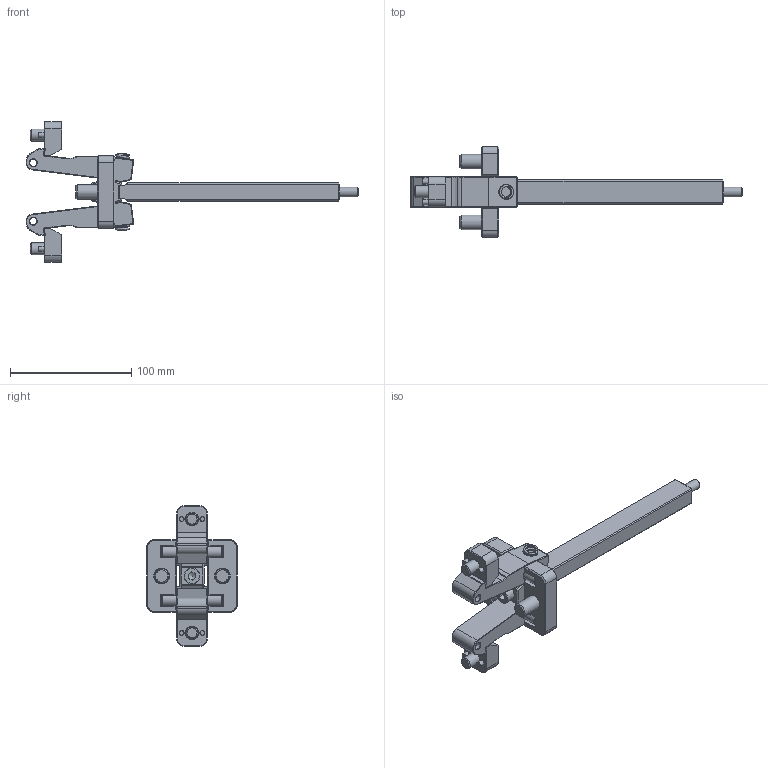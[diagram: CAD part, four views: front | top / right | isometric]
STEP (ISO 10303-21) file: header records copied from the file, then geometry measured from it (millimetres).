
FILE_DESCRIPTION (( 'STEP AP214' ), '1' );
FILE_NAME ('DT10K3.STEP', '2024-02-26T13:55:13', ( '' ), ( '' ), 'SwSTEP 2.0', 'SolidWorks 2023', '' );
FILE_SCHEMA (( 'AUTOMOTIVE_DESIGN' ));
Length unit declared in the file: millimetre
Products named in the file (12): Parallel Pin ISO 8734 - 4 x 10 - A - St_Parallel Pin ISO 8734 - 4 x 10 - A - St; DT10_DISTANZIALE PERNO QUADRO; M10x20RIB; DT10K3; DT10TS; M12x25RIB; DT10_TERMINALE QUADRO; VITE M8x220; DT10PS; DT10_SPINA 10x50; DT10L; DT10 MOLLA
Assembly tree (21 placements, depth 2):
  DT10K3
    DT10L  x2
    DT10_SPINA 10x50  x2
    DT10 MOLLA  x2
    DT10PS  x2
    DT10TS  x2
    Parallel Pin ISO 8734 - 4 x 10 - A - St_Parallel Pin ISO 8734 - 4 x 10 - A - St  x4
    M12x25RIB  x2
    M10x20RIB  x2
    DT10_TERMINALE QUADRO
    VITE M8x220
    DT10_DISTANZIALE PERNO QUADRO
Bounding box: 274.02 x 75 x 116 mm (x, y, z)
Volume: 191590.3 mm3; surface area: 76329.7 mm2
Topology: 21 solids, 21 shells, 544 faces, 1206 edges, 711 vertices
Faces by surface type: plane 327, cone 109, cylinder 95, torus 9, bspline 4
Full cylindrical faces by diameter (mm): 4 x8, 5.9 x2, 7 x2, 8 x3, 8.2 x2, 10 x3, 10.04 x2, 10.2 x2, 12 x4, 12.5 x2, 13 x1, 16 x2, 16.2 x2, 18 x2, 18.5 x2
Entity records: 10237 total; most frequent: CARTESIAN_POINT 3034, DIRECTION 1470, ORIENTED_EDGE 1272, EDGE_CURVE 636, AXIS2_PLACEMENT_3D 503, VECTOR 464, LINE 464, VERTEX_POINT 402
